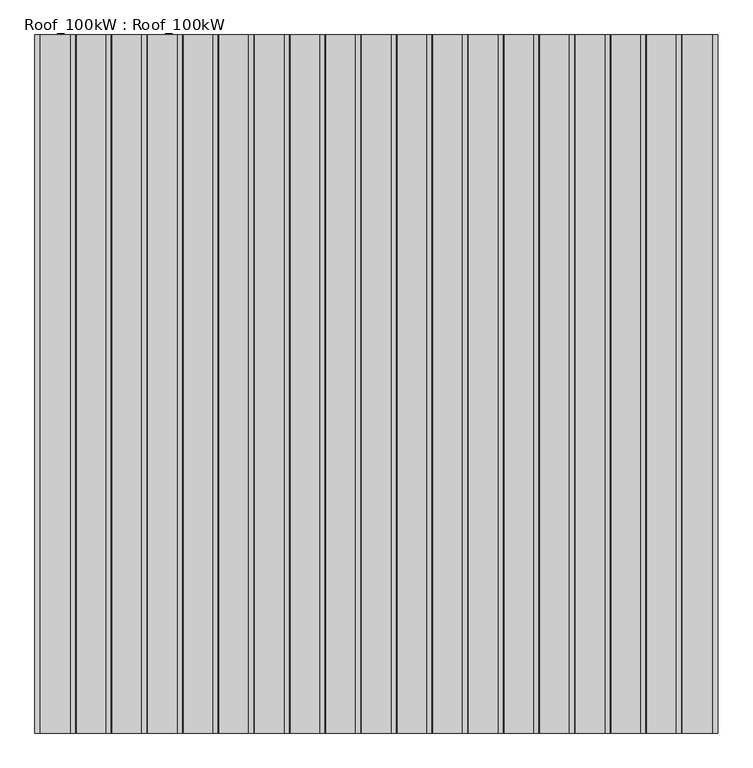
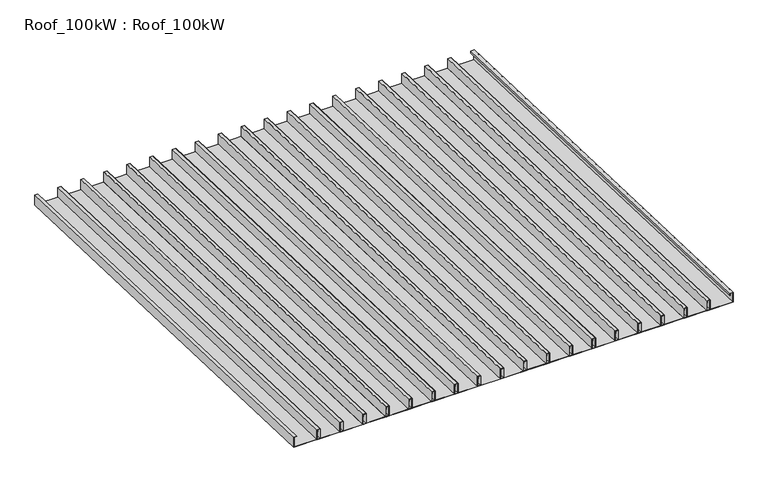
"""IFC4 building model written with IfcOpenShell, lengths in millimetres: beam geometry, Roof_100kW : Roof_100kW."""

from ifc_helpers import new_model, si_unit, origin, place, context, project, spatial, faceted_brep, source, transform, mapped, element, save


def roof_100kw_roof_100kw_ccd04ebd(model_context):
    return source(origin(), model_context, "Body", "Brep", [
        faceted_brep([(-3463.3482659, -12.227048, 3512.7230441), (-3463.3482659, -12.227048, 3436.7693421), (-3664.6482659, -12.227048, 3436.7693421), (-3664.6482659, -12.227048, 3514.7218308), (-3643.6482577, -12.227048, 3514.7218308), (-3643.6482577, -12.227048, 3516.7206085), (-3666.648271, -12.227048, 3516.7206085), (-3666.648271, -12.227048, 3434.7705604), (-3461.3482659, -12.227048, 3434.7705604), (-3461.3482659, -12.227048, 3514.7218308), (-3485.9482656, -12.227048, 3514.7218308), (-3485.9482656, -12.227048, 3497.7321843), (-3483.948265, -12.227048, 3497.7321843), (-3483.948265, -12.227048, 3512.7230441), (-3463.3482659, 3464.453761, 3391.3146758), (-3483.948265, 3464.453761, 3391.3146758), (-3483.948265, 3464.453761, 3376.3238198), (-3485.9482656, 3464.453761, 3376.3238198), (-3485.9482656, 3464.453761, 3393.3134574), (-3461.3482607, 3464.453761, 3393.3134574), (-3461.3482607, 3464.453761, 3313.3621913), (-3666.6482659, 3464.453761, 3313.3621913), (-3666.6482659, 3464.453761, 3395.312244), (-3643.6482659, 3464.453761, 3395.312244), (-3643.6482659, 3464.453761, 3393.3134574), (-3664.6482659, 3464.453761, 3393.3134574), (-3664.6482659, 3464.453761, 3315.3609776), (-3463.3482659, 3464.453761, 3315.3609776)], [[[0, 1, 2, 3, 4, 5, 6, 7, 8, 9, 10, 11, 12, 13]], [[14, 15, 16, 17, 18, 19, 20, 21, 22, 23, 24, 25, 26, 27]], [[14, 27, 1, 0]], [[27, 26, 2, 1]], [[26, 25, 3, 2]], [[25, 24, 4, 3]], [[24, 23, 5, 4]], [[23, 22, 6, 5]], [[22, 21, 7, 6]], [[21, 20, 8, 7]], [[20, 19, 9, 8]], [[19, 18, 10, 9]], [[18, 17, 11, 10]], [[17, 16, 12, 11]], [[16, 15, 13, 12]], [[15, 14, 0, 13]]]),
        faceted_brep([(-3640.9650289, -12.227048, 3512.7230441), (-3640.9650289, -12.227048, 3436.7693421), (-3842.2650289, -12.227048, 3436.7693421), (-3842.2650289, -12.227048, 3514.7218308), (-3821.2650207, -12.227048, 3514.7218308), (-3821.2650207, -12.227048, 3516.7206085), (-3844.265034, -12.227048, 3516.7206085), (-3844.265034, -12.227048, 3434.7705604), (-3638.9650289, -12.227048, 3434.7705604), (-3638.9650289, -12.227048, 3514.7218308), (-3663.5650286, -12.227048, 3514.7218308), (-3663.5650286, -12.227048, 3497.7321843), (-3661.565028, -12.227048, 3497.7321843), (-3661.565028, -12.227048, 3512.7230441), (-3640.9650289, 3464.453761, 3391.3146758), (-3661.565028, 3464.453761, 3391.3146758), (-3661.565028, 3464.453761, 3376.3238198), (-3663.5650286, 3464.453761, 3376.3238198), (-3663.5650286, 3464.453761, 3393.3134574), (-3638.9650237, 3464.453761, 3393.3134574), (-3638.9650237, 3464.453761, 3313.3621913), (-3844.2650289, 3464.453761, 3313.3621913), (-3844.2650289, 3464.453761, 3395.312244), (-3821.2650289, 3464.453761, 3395.312244), (-3821.2650289, 3464.453761, 3393.3134574), (-3842.2650289, 3464.453761, 3393.3134574), (-3842.2650289, 3464.453761, 3315.3609776), (-3640.9650289, 3464.453761, 3315.3609776)], [[[0, 1, 2, 3, 4, 5, 6, 7, 8, 9, 10, 11, 12, 13]], [[14, 15, 16, 17, 18, 19, 20, 21, 22, 23, 24, 25, 26, 27]], [[14, 27, 1, 0]], [[27, 26, 2, 1]], [[26, 25, 3, 2]], [[25, 24, 4, 3]], [[24, 23, 5, 4]], [[23, 22, 6, 5]], [[22, 21, 7, 6]], [[21, 20, 8, 7]], [[20, 19, 9, 8]], [[19, 18, 10, 9]], [[18, 17, 11, 10]], [[17, 16, 12, 11]], [[16, 15, 13, 12]], [[15, 14, 0, 13]]]),
        faceted_brep([(-3818.5817919, -12.227048, 3512.7230441), (-3818.5817919, -12.227048, 3436.7693421), (-4019.8817919, -12.227048, 3436.7693421), (-4019.8817919, -12.227048, 3514.7218308), (-3998.8817837, -12.227048, 3514.7218308), (-3998.8817837, -12.227048, 3516.7206085), (-4021.881797, -12.227048, 3516.7206085), (-4021.881797, -12.227048, 3434.7705604), (-3816.5817919, -12.227048, 3434.7705604), (-3816.5817919, -12.227048, 3514.7218308), (-3841.1817916, -12.227048, 3514.7218308), (-3841.1817916, -12.227048, 3497.7321843), (-3839.181791, -12.227048, 3497.7321843), (-3839.181791, -12.227048, 3512.7230441), (-3818.5817919, 3464.453761, 3391.3146758), (-3839.181791, 3464.453761, 3391.3146758), (-3839.181791, 3464.453761, 3376.3238198), (-3841.1817916, 3464.453761, 3376.3238198), (-3841.1817916, 3464.453761, 3393.3134574), (-3816.5817867, 3464.453761, 3393.3134574), (-3816.5817867, 3464.453761, 3313.3621913), (-4021.8817919, 3464.453761, 3313.3621913), (-4021.8817919, 3464.453761, 3395.312244), (-3998.8817919, 3464.453761, 3395.312244), (-3998.8817919, 3464.453761, 3393.3134574), (-4019.8817919, 3464.453761, 3393.3134574), (-4019.8817919, 3464.453761, 3315.3609776), (-3818.5817919, 3464.453761, 3315.3609776)], [[[0, 1, 2, 3, 4, 5, 6, 7, 8, 9, 10, 11, 12, 13]], [[14, 15, 16, 17, 18, 19, 20, 21, 22, 23, 24, 25, 26, 27]], [[14, 27, 1, 0]], [[27, 26, 2, 1]], [[26, 25, 3, 2]], [[25, 24, 4, 3]], [[24, 23, 5, 4]], [[23, 22, 6, 5]], [[22, 21, 7, 6]], [[21, 20, 8, 7]], [[20, 19, 9, 8]], [[19, 18, 10, 9]], [[18, 17, 11, 10]], [[17, 16, 12, 11]], [[16, 15, 13, 12]], [[15, 14, 0, 13]]]),
        faceted_brep([(-3996.1985549, -12.227048, 3512.7230441), (-3996.1985549, -12.227048, 3436.7693421), (-4197.4985549, -12.227048, 3436.7693421), (-4197.4985549, -12.227048, 3514.7218308), (-4176.4985467, -12.227048, 3514.7218308), (-4176.4985467, -12.227048, 3516.7206085), (-4199.49856, -12.227048, 3516.7206085), (-4199.49856, -12.227048, 3434.7705604), (-3994.1985549, -12.227048, 3434.7705604), (-3994.1985549, -12.227048, 3514.7218308), (-4018.7985546, -12.227048, 3514.7218308), (-4018.7985546, -12.227048, 3497.7321843), (-4016.798554, -12.227048, 3497.7321843), (-4016.798554, -12.227048, 3512.7230441), (-3996.1985549, 3464.453761, 3391.3146758), (-4016.798554, 3464.453761, 3391.3146758), (-4016.798554, 3464.453761, 3376.3238198), (-4018.7985546, 3464.453761, 3376.3238198), (-4018.7985546, 3464.453761, 3393.3134574), (-3994.1985497, 3464.453761, 3393.3134574), (-3994.1985497, 3464.453761, 3313.3621913), (-4199.4985549, 3464.453761, 3313.3621913), (-4199.4985549, 3464.453761, 3395.312244), (-4176.4985549, 3464.453761, 3395.312244), (-4176.4985549, 3464.453761, 3393.3134574), (-4197.4985549, 3464.453761, 3393.3134574), (-4197.4985549, 3464.453761, 3315.3609776), (-3996.1985549, 3464.453761, 3315.3609776)], [[[0, 1, 2, 3, 4, 5, 6, 7, 8, 9, 10, 11, 12, 13]], [[14, 15, 16, 17, 18, 19, 20, 21, 22, 23, 24, 25, 26, 27]], [[14, 27, 1, 0]], [[27, 26, 2, 1]], [[26, 25, 3, 2]], [[25, 24, 4, 3]], [[24, 23, 5, 4]], [[23, 22, 6, 5]], [[22, 21, 7, 6]], [[21, 20, 8, 7]], [[20, 19, 9, 8]], [[19, 18, 10, 9]], [[18, 17, 11, 10]], [[17, 16, 12, 11]], [[16, 15, 13, 12]], [[15, 14, 0, 13]]]),
        faceted_brep([(-4173.8153179, -12.227048, 3512.7230441), (-4173.8153179, -12.227048, 3436.7693421), (-4375.1153179, -12.227048, 3436.7693421), (-4375.1153179, -12.227048, 3514.7218308), (-4354.1153097, -12.227048, 3514.7218308), (-4354.1153097, -12.227048, 3516.7206085), (-4377.115323, -12.227048, 3516.7206085), (-4377.115323, -12.227048, 3434.7705604), (-4171.8153179, -12.227048, 3434.7705604), (-4171.8153179, -12.227048, 3514.7218308), (-4196.4153176, -12.227048, 3514.7218308), (-4196.4153176, -12.227048, 3497.7321843), (-4194.415317, -12.227048, 3497.7321843), (-4194.415317, -12.227048, 3512.7230441), (-4173.8153179, 3464.453761, 3391.3146758), (-4194.415317, 3464.453761, 3391.3146758), (-4194.415317, 3464.453761, 3376.3238198), (-4196.4153176, 3464.453761, 3376.3238198), (-4196.4153176, 3464.453761, 3393.3134574), (-4171.8153127, 3464.453761, 3393.3134574), (-4171.8153127, 3464.453761, 3313.3621913), (-4377.1153179, 3464.453761, 3313.3621913), (-4377.1153179, 3464.453761, 3395.312244), (-4354.1153179, 3464.453761, 3395.312244), (-4354.1153179, 3464.453761, 3393.3134574), (-4375.1153179, 3464.453761, 3393.3134574), (-4375.1153179, 3464.453761, 3315.3609776), (-4173.8153179, 3464.453761, 3315.3609776)], [[[0, 1, 2, 3, 4, 5, 6, 7, 8, 9, 10, 11, 12, 13]], [[14, 15, 16, 17, 18, 19, 20, 21, 22, 23, 24, 25, 26, 27]], [[14, 27, 1, 0]], [[27, 26, 2, 1]], [[26, 25, 3, 2]], [[25, 24, 4, 3]], [[24, 23, 5, 4]], [[23, 22, 6, 5]], [[22, 21, 7, 6]], [[21, 20, 8, 7]], [[20, 19, 9, 8]], [[19, 18, 10, 9]], [[18, 17, 11, 10]], [[17, 16, 12, 11]], [[16, 15, 13, 12]], [[15, 14, 0, 13]]]),
        faceted_brep([(-4351.4320809, -12.227048, 3512.7230441), (-4351.4320809, -12.227048, 3436.7693421), (-4552.7320809, -12.227048, 3436.7693421), (-4552.7320809, -12.227048, 3514.7218308), (-4531.7320727, -12.227048, 3514.7218308), (-4531.7320727, -12.227048, 3516.7206085), (-4554.732086, -12.227048, 3516.7206085), (-4554.732086, -12.227048, 3434.7705604), (-4349.432081, -12.227048, 3434.7705604), (-4349.432081, -12.227048, 3514.7218308), (-4374.0320806, -12.227048, 3514.7218308), (-4374.0320806, -12.227048, 3497.7321843), (-4372.03208, -12.227048, 3497.7321843), (-4372.03208, -12.227048, 3512.7230441), (-4351.4320809, 3464.453761, 3391.3146758), (-4372.03208, 3464.453761, 3391.3146758), (-4372.03208, 3464.453761, 3376.3238198), (-4374.0320806, 3464.453761, 3376.3238198), (-4374.0320806, 3464.453761, 3393.3134574), (-4349.4320757, 3464.453761, 3393.3134574), (-4349.4320757, 3464.453761, 3313.3621913), (-4554.7320809, 3464.453761, 3313.3621913), (-4554.7320809, 3464.453761, 3395.312244), (-4531.7320809, 3464.453761, 3395.312244), (-4531.7320809, 3464.453761, 3393.3134574), (-4552.7320809, 3464.453761, 3393.3134574), (-4552.7320809, 3464.453761, 3315.3609776), (-4351.4320809, 3464.453761, 3315.3609776)], [[[0, 1, 2, 3, 4, 5, 6, 7, 8, 9, 10, 11, 12, 13]], [[14, 15, 16, 17, 18, 19, 20, 21, 22, 23, 24, 25, 26, 27]], [[14, 27, 1, 0]], [[27, 26, 2, 1]], [[26, 25, 3, 2]], [[25, 24, 4, 3]], [[24, 23, 5, 4]], [[23, 22, 6, 5]], [[22, 21, 7, 6]], [[21, 20, 8, 7]], [[20, 19, 9, 8]], [[19, 18, 10, 9]], [[18, 17, 11, 10]], [[17, 16, 12, 11]], [[16, 15, 13, 12]], [[15, 14, 0, 13]]]),
        faceted_brep([(-4529.0488439, -12.227048, 3512.7230441), (-4529.0488439, -12.227048, 3436.7693421), (-4730.3488439, -12.227048, 3436.7693421), (-4730.3488439, -12.227048, 3514.7218308), (-4709.3488358, -12.227048, 3514.7218308), (-4709.3488358, -12.227048, 3516.7206085), (-4732.348849, -12.227048, 3516.7206085), (-4732.348849, -12.227048, 3434.7705604), (-4527.048844, -12.227048, 3434.7705604), (-4527.048844, -12.227048, 3514.7218308), (-4551.6488436, -12.227048, 3514.7218308), (-4551.6488436, -12.227048, 3497.7321843), (-4549.648843, -12.227048, 3497.7321843), (-4549.648843, -12.227048, 3512.7230441), (-4529.048844, 3464.453761, 3391.3146758), (-4549.648843, 3464.453761, 3391.3146758), (-4549.648843, 3464.453761, 3376.3238198), (-4551.6488436, 3464.453761, 3376.3238198), (-4551.6488436, 3464.453761, 3393.3134574), (-4527.0488387, 3464.453761, 3393.3134574), (-4527.0488387, 3464.453761, 3313.3621913), (-4732.348844, 3464.453761, 3313.3621913), (-4732.348844, 3464.453761, 3395.312244), (-4709.348844, 3464.453761, 3395.312244), (-4709.348844, 3464.453761, 3393.3134574), (-4730.348844, 3464.453761, 3393.3134574), (-4730.348844, 3464.453761, 3315.3609776), (-4529.048844, 3464.453761, 3315.3609776)], [[[0, 1, 2, 3, 4, 5, 6, 7, 8, 9, 10, 11, 12, 13]], [[14, 15, 16, 17, 18, 19, 20, 21, 22, 23, 24, 25, 26, 27]], [[14, 27, 1, 0]], [[27, 26, 2, 1]], [[26, 25, 3, 2]], [[25, 24, 4, 3]], [[24, 23, 5, 4]], [[23, 22, 6, 5]], [[22, 21, 7, 6]], [[21, 20, 8, 7]], [[20, 19, 9, 8]], [[19, 18, 10, 9]], [[18, 17, 11, 10]], [[17, 16, 12, 11]], [[16, 15, 13, 12]], [[15, 14, 0, 13]]]),
        faceted_brep([(-4706.665607, -12.227048, 3512.7230441), (-4706.665607, -12.227048, 3436.7693421), (-4907.9656069, -12.227048, 3436.7693421), (-4907.9656069, -12.227048, 3514.7218308), (-4886.9655988, -12.227048, 3514.7218308), (-4886.9655988, -12.227048, 3516.7206085), (-4909.965612, -12.227048, 3516.7206085), (-4909.965612, -12.227048, 3434.7705604), (-4704.665607, -12.227048, 3434.7705604), (-4704.665607, -12.227048, 3514.7218308), (-4729.2656066, -12.227048, 3514.7218308), (-4729.2656066, -12.227048, 3497.7321843), (-4727.265606, -12.227048, 3497.7321843), (-4727.265606, -12.227048, 3512.7230441), (-4706.665607, 3464.453761, 3391.3146758), (-4727.265606, 3464.453761, 3391.3146758), (-4727.265606, 3464.453761, 3376.3238198), (-4729.2656066, 3464.453761, 3376.3238198), (-4729.2656066, 3464.453761, 3393.3134574), (-4704.6656017, 3464.453761, 3393.3134574), (-4704.6656017, 3464.453761, 3313.3621913), (-4909.965607, 3464.453761, 3313.3621913), (-4909.965607, 3464.453761, 3395.312244), (-4886.965607, 3464.453761, 3395.312244), (-4886.965607, 3464.453761, 3393.3134574), (-4907.965607, 3464.453761, 3393.3134574), (-4907.965607, 3464.453761, 3315.3609776), (-4706.665607, 3464.453761, 3315.3609776)], [[[0, 1, 2, 3, 4, 5, 6, 7, 8, 9, 10, 11, 12, 13]], [[14, 15, 16, 17, 18, 19, 20, 21, 22, 23, 24, 25, 26, 27]], [[14, 27, 1, 0]], [[27, 26, 2, 1]], [[26, 25, 3, 2]], [[25, 24, 4, 3]], [[24, 23, 5, 4]], [[23, 22, 6, 5]], [[22, 21, 7, 6]], [[21, 20, 8, 7]], [[20, 19, 9, 8]], [[19, 18, 10, 9]], [[18, 17, 11, 10]], [[17, 16, 12, 11]], [[16, 15, 13, 12]], [[15, 14, 0, 13]]]),
        faceted_brep([(-4884.28237, -12.227048, 3512.7230441), (-4884.28237, -12.227048, 3436.7693421), (-5085.5823699, -12.227048, 3436.7693421), (-5085.5823699, -12.227048, 3514.7218308), (-5064.5823618, -12.227048, 3514.7218308), (-5064.5823618, -12.227048, 3516.7206085), (-5087.582375, -12.227048, 3516.7206085), (-5087.582375, -12.227048, 3434.7705604), (-4882.28237, -12.227048, 3434.7705604), (-4882.28237, -12.227048, 3514.7218308), (-4906.8823696, -12.227048, 3514.7218308), (-4906.8823696, -12.227048, 3497.7321843), (-4904.882369, -12.227048, 3497.7321843), (-4904.882369, -12.227048, 3512.7230441), (-4884.28237, 3464.453761, 3391.3146758), (-4904.882369, 3464.453761, 3391.3146758), (-4904.882369, 3464.453761, 3376.3238198), (-4906.8823696, 3464.453761, 3376.3238198), (-4906.8823696, 3464.453761, 3393.3134574), (-4882.2823647, 3464.453761, 3393.3134574), (-4882.2823647, 3464.453761, 3313.3621913), (-5087.58237, 3464.453761, 3313.3621913), (-5087.58237, 3464.453761, 3395.312244), (-5064.58237, 3464.453761, 3395.312244), (-5064.58237, 3464.453761, 3393.3134574), (-5085.58237, 3464.453761, 3393.3134574), (-5085.58237, 3464.453761, 3315.3609776), (-4884.28237, 3464.453761, 3315.3609776)], [[[0, 1, 2, 3, 4, 5, 6, 7, 8, 9, 10, 11, 12, 13]], [[14, 15, 16, 17, 18, 19, 20, 21, 22, 23, 24, 25, 26, 27]], [[14, 27, 1, 0]], [[27, 26, 2, 1]], [[26, 25, 3, 2]], [[25, 24, 4, 3]], [[24, 23, 5, 4]], [[23, 22, 6, 5]], [[22, 21, 7, 6]], [[21, 20, 8, 7]], [[20, 19, 9, 8]], [[19, 18, 10, 9]], [[18, 17, 11, 10]], [[17, 16, 12, 11]], [[16, 15, 13, 12]], [[15, 14, 0, 13]]]),
        faceted_brep([(-5061.899133, -12.227048, 3512.7230441), (-5061.899133, -12.227048, 3436.7693421), (-5263.1991329, -12.227048, 3436.7693421), (-5263.1991329, -12.227048, 3514.7218308), (-5242.1991248, -12.227048, 3514.7218308), (-5242.1991248, -12.227048, 3516.7206085), (-5265.199138, -12.227048, 3516.7206085), (-5265.199138, -12.227048, 3434.7705604), (-5059.899133, -12.227048, 3434.7705604), (-5059.899133, -12.227048, 3514.7218308), (-5084.4991326, -12.227048, 3514.7218308), (-5084.4991326, -12.227048, 3497.7321843), (-5082.499132, -12.227048, 3497.7321843), (-5082.499132, -12.227048, 3512.7230441), (-5061.899133, 3464.453761, 3391.3146758), (-5082.499132, 3464.453761, 3391.3146758), (-5082.499132, 3464.453761, 3376.3238198), (-5084.4991326, 3464.453761, 3376.3238198), (-5084.4991326, 3464.453761, 3393.3134574), (-5059.8991277, 3464.453761, 3393.3134574), (-5059.8991277, 3464.453761, 3313.3621913), (-5265.199133, 3464.453761, 3313.3621913), (-5265.199133, 3464.453761, 3395.312244), (-5242.199133, 3464.453761, 3395.312244), (-5242.199133, 3464.453761, 3393.3134574), (-5263.199133, 3464.453761, 3393.3134574), (-5263.199133, 3464.453761, 3315.3609776), (-5061.899133, 3464.453761, 3315.3609776)], [[[0, 1, 2, 3, 4, 5, 6, 7, 8, 9, 10, 11, 12, 13]], [[14, 15, 16, 17, 18, 19, 20, 21, 22, 23, 24, 25, 26, 27]], [[14, 27, 1, 0]], [[27, 26, 2, 1]], [[26, 25, 3, 2]], [[25, 24, 4, 3]], [[24, 23, 5, 4]], [[23, 22, 6, 5]], [[22, 21, 7, 6]], [[21, 20, 8, 7]], [[20, 19, 9, 8]], [[19, 18, 10, 9]], [[18, 17, 11, 10]], [[17, 16, 12, 11]], [[16, 15, 13, 12]], [[15, 14, 0, 13]]]),
        faceted_brep([(-5239.515896, -12.227048, 3512.7230441), (-5239.515896, -12.227048, 3436.7693421), (-5440.8158959, -12.227048, 3436.7693421), (-5440.8158959, -12.227048, 3514.7218308), (-5419.8158878, -12.227048, 3514.7218308), (-5419.8158878, -12.227048, 3516.7206085), (-5442.815901, -12.227048, 3516.7206085), (-5442.815901, -12.227048, 3434.7705604), (-5237.515896, -12.227048, 3434.7705604), (-5237.515896, -12.227048, 3514.7218308), (-5262.1158956, -12.227048, 3514.7218308), (-5262.1158956, -12.227048, 3497.7321843), (-5260.115895, -12.227048, 3497.7321843), (-5260.115895, -12.227048, 3512.7230441), (-5239.515896, 3464.453761, 3391.3146758), (-5260.115895, 3464.453761, 3391.3146758), (-5260.115895, 3464.453761, 3376.3238198), (-5262.1158956, 3464.453761, 3376.3238198), (-5262.1158956, 3464.453761, 3393.3134574), (-5237.5158907, 3464.453761, 3393.3134574), (-5237.5158907, 3464.453761, 3313.3621913), (-5442.815896, 3464.453761, 3313.3621913), (-5442.815896, 3464.453761, 3395.312244), (-5419.815896, 3464.453761, 3395.312244), (-5419.815896, 3464.453761, 3393.3134574), (-5440.815896, 3464.453761, 3393.3134574), (-5440.815896, 3464.453761, 3315.3609776), (-5239.515896, 3464.453761, 3315.3609776)], [[[0, 1, 2, 3, 4, 5, 6, 7, 8, 9, 10, 11, 12, 13]], [[14, 15, 16, 17, 18, 19, 20, 21, 22, 23, 24, 25, 26, 27]], [[14, 27, 1, 0]], [[27, 26, 2, 1]], [[26, 25, 3, 2]], [[25, 24, 4, 3]], [[24, 23, 5, 4]], [[23, 22, 6, 5]], [[22, 21, 7, 6]], [[21, 20, 8, 7]], [[20, 19, 9, 8]], [[19, 18, 10, 9]], [[18, 17, 11, 10]], [[17, 16, 12, 11]], [[16, 15, 13, 12]], [[15, 14, 0, 13]]]),
        faceted_brep([(-5417.132659, -12.227048, 3512.7230441), (-5417.132659, -12.227048, 3436.7693421), (-5618.4326589, -12.227048, 3436.7693421), (-5618.4326589, -12.227048, 3514.7218308), (-5597.4326508, -12.227048, 3514.7218308), (-5597.4326508, -12.227048, 3516.7206085), (-5620.432664, -12.227048, 3516.7206085), (-5620.432664, -12.227048, 3434.7705604), (-5415.132659, -12.227048, 3434.7705604), (-5415.132659, -12.227048, 3514.7218308), (-5439.7326586, -12.227048, 3514.7218308), (-5439.7326586, -12.227048, 3497.7321843), (-5437.732658, -12.227048, 3497.7321843), (-5437.732658, -12.227048, 3512.7230441), (-5417.132659, 3464.453761, 3391.3146758), (-5437.732658, 3464.453761, 3391.3146758), (-5437.732658, 3464.453761, 3376.3238198), (-5439.7326586, 3464.453761, 3376.3238198), (-5439.7326586, 3464.453761, 3393.3134574), (-5415.1326537, 3464.453761, 3393.3134574), (-5415.1326537, 3464.453761, 3313.3621913), (-5620.432659, 3464.453761, 3313.3621913), (-5620.432659, 3464.453761, 3395.312244), (-5597.432659, 3464.453761, 3395.312244), (-5597.432659, 3464.453761, 3393.3134574), (-5618.432659, 3464.453761, 3393.3134574), (-5618.432659, 3464.453761, 3315.3609776), (-5417.132659, 3464.453761, 3315.3609776)], [[[0, 1, 2, 3, 4, 5, 6, 7, 8, 9, 10, 11, 12, 13]], [[14, 15, 16, 17, 18, 19, 20, 21, 22, 23, 24, 25, 26, 27]], [[14, 27, 1, 0]], [[27, 26, 2, 1]], [[26, 25, 3, 2]], [[25, 24, 4, 3]], [[24, 23, 5, 4]], [[23, 22, 6, 5]], [[22, 21, 7, 6]], [[21, 20, 8, 7]], [[20, 19, 9, 8]], [[19, 18, 10, 9]], [[18, 17, 11, 10]], [[17, 16, 12, 11]], [[16, 15, 13, 12]], [[15, 14, 0, 13]]]),
        faceted_brep([(-5594.749422, -12.227048, 3512.7230441), (-5594.749422, -12.227048, 3436.7693421), (-5796.0494219, -12.227048, 3436.7693421), (-5796.0494219, -12.227048, 3514.7218308), (-5775.0494138, -12.227048, 3514.7218308), (-5775.0494138, -12.227048, 3516.7206085), (-5798.049427, -12.227048, 3516.7206085), (-5798.049427, -12.227048, 3434.7705604), (-5592.749422, -12.227048, 3434.7705604), (-5592.749422, -12.227048, 3514.7218308), (-5617.3494216, -12.227048, 3514.7218308), (-5617.3494216, -12.227048, 3497.7321843), (-5615.349421, -12.227048, 3497.7321843), (-5615.349421, -12.227048, 3512.7230441), (-5594.749422, 3464.453761, 3391.3146758), (-5615.349421, 3464.453761, 3391.3146758), (-5615.349421, 3464.453761, 3376.3238198), (-5617.3494216, 3464.453761, 3376.3238198), (-5617.3494216, 3464.453761, 3393.3134574), (-5592.7494167, 3464.453761, 3393.3134574), (-5592.7494167, 3464.453761, 3313.3621913), (-5798.049422, 3464.453761, 3313.3621913), (-5798.049422, 3464.453761, 3395.312244), (-5775.049422, 3464.453761, 3395.312244), (-5775.049422, 3464.453761, 3393.3134574), (-5796.049422, 3464.453761, 3393.3134574), (-5796.049422, 3464.453761, 3315.3609776), (-5594.749422, 3464.453761, 3315.3609776)], [[[0, 1, 2, 3, 4, 5, 6, 7, 8, 9, 10, 11, 12, 13]], [[14, 15, 16, 17, 18, 19, 20, 21, 22, 23, 24, 25, 26, 27]], [[14, 27, 1, 0]], [[27, 26, 2, 1]], [[26, 25, 3, 2]], [[25, 24, 4, 3]], [[24, 23, 5, 4]], [[23, 22, 6, 5]], [[22, 21, 7, 6]], [[21, 20, 8, 7]], [[20, 19, 9, 8]], [[19, 18, 10, 9]], [[18, 17, 11, 10]], [[17, 16, 12, 11]], [[16, 15, 13, 12]], [[15, 14, 0, 13]]]),
        faceted_brep([(-5772.366185, -12.227048, 3512.7230441), (-5772.366185, -12.227048, 3436.7693421), (-5973.6661849, -12.227048, 3436.7693421), (-5973.6661849, -12.227048, 3514.7218308), (-5952.6661768, -12.227048, 3514.7218308), (-5952.6661768, -12.227048, 3516.7206085), (-5975.66619, -12.227048, 3516.7206085), (-5975.66619, -12.227048, 3434.7705604), (-5770.366185, -12.227048, 3434.7705604), (-5770.366185, -12.227048, 3514.7218308), (-5794.9661846, -12.227048, 3514.7218308), (-5794.9661846, -12.227048, 3497.7321843), (-5792.966184, -12.227048, 3497.7321843), (-5792.966184, -12.227048, 3512.7230441), (-5772.366185, 3464.453761, 3391.3146758), (-5792.966184, 3464.453761, 3391.3146758), (-5792.966184, 3464.453761, 3376.3238198), (-5794.9661846, 3464.453761, 3376.3238198), (-5794.9661846, 3464.453761, 3393.3134574), (-5770.3661797, 3464.453761, 3393.3134574), (-5770.3661797, 3464.453761, 3313.3621913), (-5975.666185, 3464.453761, 3313.3621913), (-5975.666185, 3464.453761, 3395.312244), (-5952.666185, 3464.453761, 3395.312244), (-5952.666185, 3464.453761, 3393.3134574), (-5973.666185, 3464.453761, 3393.3134574), (-5973.666185, 3464.453761, 3315.3609776), (-5772.366185, 3464.453761, 3315.3609776)], [[[0, 1, 2, 3, 4, 5, 6, 7, 8, 9, 10, 11, 12, 13]], [[14, 15, 16, 17, 18, 19, 20, 21, 22, 23, 24, 25, 26, 27]], [[14, 27, 1, 0]], [[27, 26, 2, 1]], [[26, 25, 3, 2]], [[25, 24, 4, 3]], [[24, 23, 5, 4]], [[23, 22, 6, 5]], [[22, 21, 7, 6]], [[21, 20, 8, 7]], [[20, 19, 9, 8]], [[19, 18, 10, 9]], [[18, 17, 11, 10]], [[17, 16, 12, 11]], [[16, 15, 13, 12]], [[15, 14, 0, 13]]]),
        faceted_brep([(-5949.982948, -12.227048, 3512.7230441), (-5949.982948, -12.227048, 3436.7693421), (-6151.2829479, -12.227048, 3436.7693421), (-6151.2829479, -12.227048, 3514.7218308), (-6130.2829398, -12.227048, 3514.7218308), (-6130.2829398, -12.227048, 3516.7206085), (-6153.282953, -12.227048, 3516.7206085), (-6153.282953, -12.227048, 3434.7705604), (-5947.982948, -12.227048, 3434.7705604), (-5947.982948, -12.227048, 3514.7218308), (-5972.5829476, -12.227048, 3514.7218308), (-5972.5829476, -12.227048, 3497.7321843), (-5970.582947, -12.227048, 3497.7321843), (-5970.582947, -12.227048, 3512.7230441), (-5949.982948, 3464.453761, 3391.3146758), (-5970.582947, 3464.453761, 3391.3146758), (-5970.582947, 3464.453761, 3376.3238198), (-5972.5829476, 3464.453761, 3376.3238198), (-5972.5829476, 3464.453761, 3393.3134574), (-5947.9829427, 3464.453761, 3393.3134574), (-5947.9829427, 3464.453761, 3313.3621913), (-6153.282948, 3464.453761, 3313.3621913), (-6153.282948, 3464.453761, 3395.312244), (-6130.282948, 3464.453761, 3395.312244), (-6130.282948, 3464.453761, 3393.3134574), (-6151.282948, 3464.453761, 3393.3134574), (-6151.282948, 3464.453761, 3315.3609776), (-5949.982948, 3464.453761, 3315.3609776)], [[[0, 1, 2, 3, 4, 5, 6, 7, 8, 9, 10, 11, 12, 13]], [[14, 15, 16, 17, 18, 19, 20, 21, 22, 23, 24, 25, 26, 27]], [[14, 27, 1, 0]], [[27, 26, 2, 1]], [[26, 25, 3, 2]], [[25, 24, 4, 3]], [[24, 23, 5, 4]], [[23, 22, 6, 5]], [[22, 21, 7, 6]], [[21, 20, 8, 7]], [[20, 19, 9, 8]], [[19, 18, 10, 9]], [[18, 17, 11, 10]], [[17, 16, 12, 11]], [[16, 15, 13, 12]], [[15, 14, 0, 13]]]),
        faceted_brep([(-6127.599711, -12.227048, 3512.7230441), (-6127.599711, -12.227048, 3436.7693421), (-6328.8997109, -12.227048, 3436.7693421), (-6328.8997109, -12.227048, 3514.7218308), (-6307.8997028, -12.227048, 3514.7218308), (-6307.8997028, -12.227048, 3516.7206085), (-6330.899716, -12.227048, 3516.7206085), (-6330.899716, -12.227048, 3434.7705604), (-6125.599711, -12.227048, 3434.7705604), (-6125.599711, -12.227048, 3514.7218308), (-6150.1997106, -12.227048, 3514.7218308), (-6150.1997106, -12.227048, 3497.7321843), (-6148.1997101, -12.227048, 3497.7321843), (-6148.1997101, -12.227048, 3512.7230441), (-6127.599711, 3464.453761, 3391.3146758), (-6148.1997101, 3464.453761, 3391.3146758), (-6148.1997101, 3464.453761, 3376.3238198), (-6150.1997106, 3464.453761, 3376.3238198), (-6150.1997106, 3464.453761, 3393.3134574), (-6125.5997057, 3464.453761, 3393.3134574), (-6125.5997057, 3464.453761, 3313.3621913), (-6330.899711, 3464.453761, 3313.3621913), (-6330.899711, 3464.453761, 3395.312244), (-6307.899711, 3464.453761, 3395.312244), (-6307.899711, 3464.453761, 3393.3134574), (-6328.899711, 3464.453761, 3393.3134574), (-6328.899711, 3464.453761, 3315.3609776), (-6127.599711, 3464.453761, 3315.3609776)], [[[0, 1, 2, 3, 4, 5, 6, 7, 8, 9, 10, 11, 12, 13]], [[14, 15, 16, 17, 18, 19, 20, 21, 22, 23, 24, 25, 26, 27]], [[14, 27, 1, 0]], [[27, 26, 2, 1]], [[26, 25, 3, 2]], [[25, 24, 4, 3]], [[24, 23, 5, 4]], [[23, 22, 6, 5]], [[22, 21, 7, 6]], [[21, 20, 8, 7]], [[20, 19, 9, 8]], [[19, 18, 10, 9]], [[18, 17, 11, 10]], [[17, 16, 12, 11]], [[16, 15, 13, 12]], [[15, 14, 0, 13]]]),
        faceted_brep([(-6305.216474, -12.227048, 3512.7230441), (-6305.216474, -12.227048, 3436.7693421), (-6506.5164739, -12.227048, 3436.7693421), (-6506.5164739, -12.227048, 3514.7218308), (-6485.5164658, -12.227048, 3514.7218308), (-6485.5164658, -12.227048, 3516.7206085), (-6508.516479, -12.227048, 3516.7206085), (-6508.516479, -12.227048, 3434.7705604), (-6303.216474, -12.227048, 3434.7705604), (-6303.216474, -12.227048, 3514.7218308), (-6327.8164736, -12.227048, 3514.7218308), (-6327.8164736, -12.227048, 3497.7321843), (-6325.8164731, -12.227048, 3497.7321843), (-6325.8164731, -12.227048, 3512.7230441), (-6305.216474, 3464.453761, 3391.3146758), (-6325.8164731, 3464.453761, 3391.3146758), (-6325.8164731, 3464.453761, 3376.3238198), (-6327.8164736, 3464.453761, 3376.3238198), (-6327.8164736, 3464.453761, 3393.3134574), (-6303.2164687, 3464.453761, 3393.3134574), (-6303.2164687, 3464.453761, 3313.3621913), (-6508.516474, 3464.453761, 3313.3621913), (-6508.516474, 3464.453761, 3395.312244), (-6485.516474, 3464.453761, 3395.312244), (-6485.516474, 3464.453761, 3393.3134574), (-6506.516474, 3464.453761, 3393.3134574), (-6506.516474, 3464.453761, 3315.3609776), (-6305.216474, 3464.453761, 3315.3609776)], [[[0, 1, 2, 3, 4, 5, 6, 7, 8, 9, 10, 11, 12, 13]], [[14, 15, 16, 17, 18, 19, 20, 21, 22, 23, 24, 25, 26, 27]], [[14, 27, 1, 0]], [[27, 26, 2, 1]], [[26, 25, 3, 2]], [[25, 24, 4, 3]], [[24, 23, 5, 4]], [[23, 22, 6, 5]], [[22, 21, 7, 6]], [[21, 20, 8, 7]], [[20, 19, 9, 8]], [[19, 18, 10, 9]], [[18, 17, 11, 10]], [[17, 16, 12, 11]], [[16, 15, 13, 12]], [[15, 14, 0, 13]]]),
        faceted_brep([(-6482.833237, -12.227048, 3512.7230441), (-6482.833237, -12.227048, 3436.7693421), (-6684.1332369, -12.227048, 3436.7693421), (-6684.1332369, -12.227048, 3514.7218308), (-6663.1332288, -12.227048, 3514.7218308), (-6663.1332288, -12.227048, 3516.7206085), (-6686.1332421, -12.227048, 3516.7206085), (-6686.1332421, -12.227048, 3434.7705604), (-6480.833237, -12.227048, 3434.7705604), (-6480.833237, -12.227048, 3514.7218308), (-6505.4332366, -12.227048, 3514.7218308), (-6505.4332366, -12.227048, 3497.7321843), (-6503.4332361, -12.227048, 3497.7321843), (-6503.4332361, -12.227048, 3512.7230441), (-6482.833237, 3464.453761, 3391.3146758), (-6503.4332361, 3464.453761, 3391.3146758), (-6503.4332361, 3464.453761, 3376.3238198), (-6505.4332366, 3464.453761, 3376.3238198), (-6505.4332366, 3464.453761, 3393.3134574), (-6480.8332318, 3464.453761, 3393.3134574), (-6480.8332318, 3464.453761, 3313.3621913), (-6686.133237, 3464.453761, 3313.3621913), (-6686.133237, 3464.453761, 3395.312244), (-6663.133237, 3464.453761, 3395.312244), (-6663.133237, 3464.453761, 3393.3134574), (-6684.133237, 3464.453761, 3393.3134574), (-6684.133237, 3464.453761, 3315.3609776), (-6482.833237, 3464.453761, 3315.3609776)], [[[0, 1, 2, 3, 4, 5, 6, 7, 8, 9, 10, 11, 12, 13]], [[14, 15, 16, 17, 18, 19, 20, 21, 22, 23, 24, 25, 26, 27]], [[14, 27, 1, 0]], [[27, 26, 2, 1]], [[26, 25, 3, 2]], [[25, 24, 4, 3]], [[24, 23, 5, 4]], [[23, 22, 6, 5]], [[22, 21, 7, 6]], [[21, 20, 8, 7]], [[20, 19, 9, 8]], [[19, 18, 10, 9]], [[18, 17, 11, 10]], [[17, 16, 12, 11]], [[16, 15, 13, 12]], [[15, 14, 0, 13]]]),
        faceted_brep([(-6660.45, -12.227048, 3512.7230441), (-6660.45, -12.227048, 3436.7693421), (-6861.75, -12.227048, 3436.7693421), (-6861.75, -12.227048, 3514.7218308), (-6840.7499918, -12.227048, 3514.7218308), (-6840.7499918, -12.227048, 3516.7206085), (-6863.7500051, -12.227048, 3516.7206085), (-6863.7500051, -12.227048, 3434.7705604), (-6658.45, -12.227048, 3434.7705604), (-6658.45, -12.227048, 3514.7218308), (-6683.0499996, -12.227048, 3514.7218308), (-6683.0499996, -12.227048, 3497.7321843), (-6681.0499991, -12.227048, 3497.7321843), (-6681.0499991, -12.227048, 3512.7230441), (-6660.45, 3464.453761, 3391.3146758), (-6681.0499991, 3464.453761, 3391.3146758), (-6681.0499991, 3464.453761, 3376.3238198), (-6683.0499996, 3464.453761, 3376.3238198), (-6683.0499996, 3464.453761, 3393.3134574), (-6658.4499948, 3464.453761, 3393.3134574), (-6658.4499948, 3464.453761, 3313.3621913), (-6863.75, 3464.453761, 3313.3621913), (-6863.75, 3464.453761, 3395.312244), (-6840.75, 3464.453761, 3395.312244), (-6840.75, 3464.453761, 3393.3134574), (-6861.75, 3464.453761, 3393.3134574), (-6861.75, 3464.453761, 3315.3609776), (-6660.45, 3464.453761, 3315.3609776)], [[[0, 1, 2, 3, 4, 5, 6, 7, 8, 9, 10, 11, 12, 13]], [[14, 15, 16, 17, 18, 19, 20, 21, 22, 23, 24, 25, 26, 27]], [[14, 27, 1, 0]], [[27, 26, 2, 1]], [[26, 25, 3, 2]], [[25, 24, 4, 3]], [[24, 23, 5, 4]], [[23, 22, 6, 5]], [[22, 21, 7, 6]], [[21, 20, 8, 7]], [[20, 19, 9, 8]], [[19, 18, 10, 9]], [[18, 17, 11, 10]], [[17, 16, 12, 11]], [[16, 15, 13, 12]], [[15, 14, 0, 13]]]),
    ])


if __name__ == "__main__":
    model = new_model("IFC4")
    model_context = context("Model", 3, world=origin())
    ifc_project = project(units=[si_unit("LENGTHUNIT", "METRE", prefix="MILLI")], contexts=[model_context])
    site = spatial("IfcSite", under=ifc_project)
    building = spatial("IfcBuilding", under=site)
    placement = place(None, origin())
    roof_100kw_roof_100kw_shape = roof_100kw_roof_100kw_ccd04ebd(model_context)
    element("IfcBeam", 1, ObjectType="Roof_100kW : Roof_100kW", at=placement, inside=building, context=model_context, shape_type="MappedRepresentation", body=[
        mapped(roof_100kw_roof_100kw_shape, transform((0.0, 0.0, 0.0), x_axis=(1.0, 0.0, 0.0), y_axis=(0.0, 1.0, 0.0), z_axis=(0.0, 0.0, 1.0))),
    ])
    save(model, "model.ifc")
